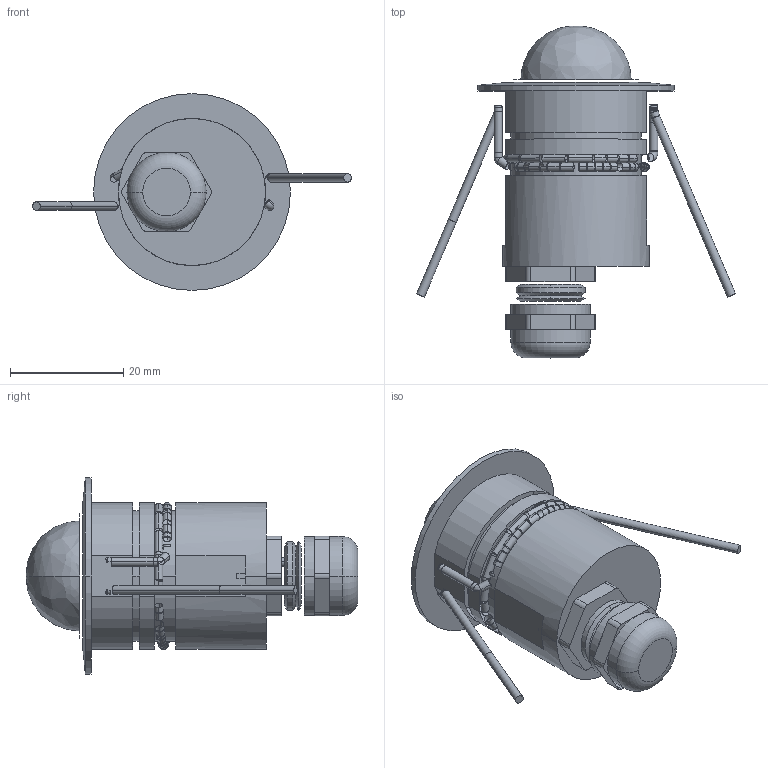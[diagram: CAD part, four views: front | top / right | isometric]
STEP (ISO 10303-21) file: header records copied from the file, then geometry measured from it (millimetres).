
FILE_DESCRIPTION((''),'2;1');
FILE_NAME('CNC35-T-SPORGENTE_SW0001','2025-07-30T16:04:34',('Piccioli'),(''),'CREO PARAMETRIC BY PTC INC, 2025010','CREO PARAMETRIC BY PTC INC, 2025010','');
FILE_SCHEMA(('CONFIG_CONTROL_DESIGN'));
Length unit declared in the file: millimetre
Products named in the file (1): CNC35-T-SPORGENTE_SW0001
Bounding box: 56.38 x 58.7 x 34.8 mm (x, y, z)
Surface area: 8181.6 mm2 (no closed solid volume)
Topology: 0 solids, 70 shells, 186 faces, 549 edges, 384 vertices
Faces by surface type: cylinder 137, plane 28, cone 10, torus 7, bspline 4
Entity records: 6314 total; most frequent: CARTESIAN_POINT 1320, DIRECTION 1224, ORIENTED_EDGE 778, EDGE_CURVE 548, AXIS2_PLACEMENT_3D 502, VERTEX_POINT 384, CIRCLE 320, VECTOR 220
